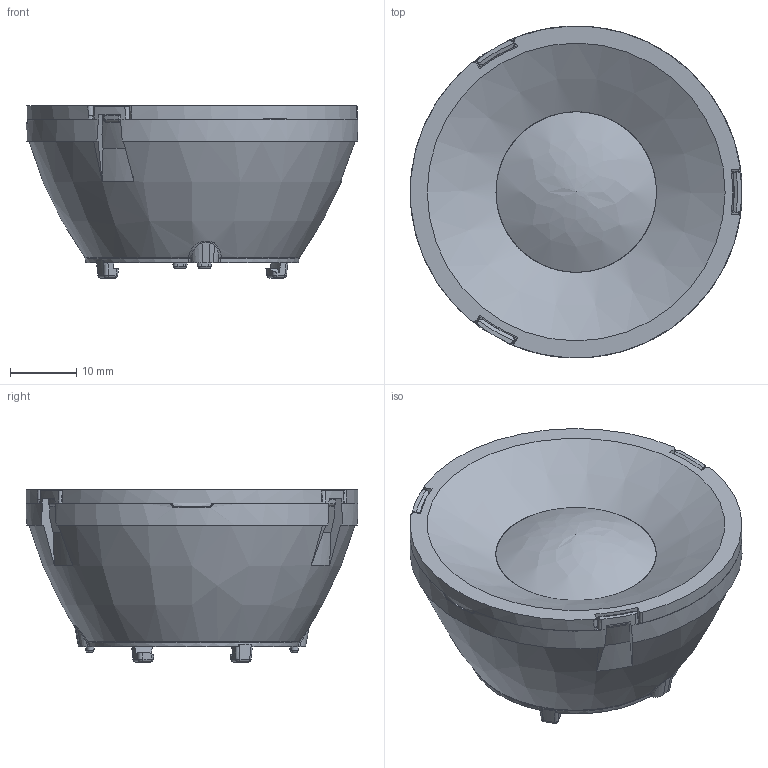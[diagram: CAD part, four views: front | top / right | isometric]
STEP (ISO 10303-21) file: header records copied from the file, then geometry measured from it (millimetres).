
FILE_DESCRIPTION (( 'STEP AP214' ), '1' );
FILE_NAME ('LEDR-BIA50--3D.STEP', '2025-08-28T02:07:21', ( '1' ), ( '' ), 'SwSTEP 2.0', 'SolidWorks 2018', '' );
FILE_SCHEMA (( 'AUTOMOTIVE_DESIGN' ));
Length unit declared in the file: millimetre
Products named in the file (1): LEDR-BIA50--3D
Bounding box: 49.91 x 50 x 25.95 mm (x, y, z)
Volume: 25750.6 mm3; surface area: 13547.1 mm2
Topology: 2 solids, 2 shells, 443 faces, 1260 edges, 801 vertices
Faces by surface type: bspline 238, plane 87, cone 62, cylinder 24, sphere 18, torus 14
Entity records: 19783 total; most frequent: CARTESIAN_POINT 10248, ORIENTED_EDGE 2458, DIRECTION 1383, EDGE_CURVE 1229, VERTEX_POINT 792, AXIS2_PLACEMENT_3D 622, B_SPLINE_CURVE_WITH_KNOTS 622, EDGE_LOOP 451
